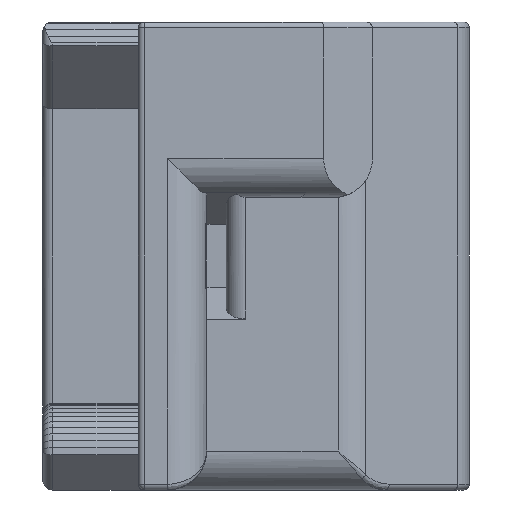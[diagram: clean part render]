
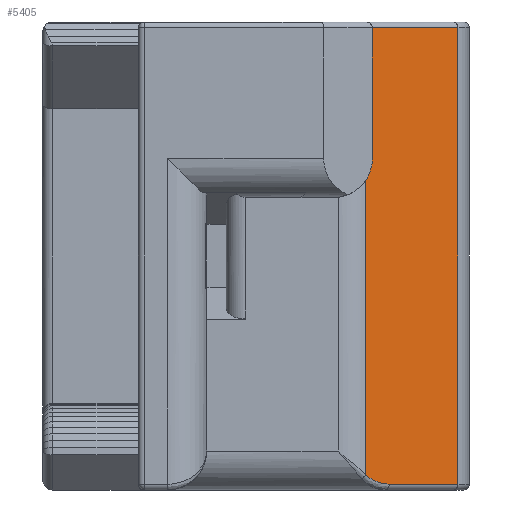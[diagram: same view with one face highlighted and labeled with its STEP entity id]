
A CAD part, left-side view. The second image highlights one B-rep face of the part: STEP entity #5405.
In plain terms, the highlighted planar face has unit normal (-0.707, -0.707, 0).
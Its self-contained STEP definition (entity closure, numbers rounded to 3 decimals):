
#63=PLANE('',#5752);
#221=LINE('',#7757,#760);
#222=LINE('',#7759,#761);
#223=LINE('',#7761,#762);
#224=LINE('',#7763,#763);
#225=LINE('',#7766,#764);
#760=VECTOR('',#6214,10.);
#761=VECTOR('',#6215,10.);
#762=VECTOR('',#6216,10.);
#763=VECTOR('',#6217,10.);
#764=VECTOR('',#6220,10.);
#1391=ELLIPSE('',#5749,2.404,1.7);
#1393=ELLIPSE('',#5753,2.828,2.);
#1478=FACE_OUTER_BOUND('',#1802,.T.);
#1802=EDGE_LOOP('',(#3710,#3711,#3712,#3713,#3714,#3715,#3716));
#2349=VERTEX_POINT('',#7693);
#2353=VERTEX_POINT('',#7746);
#2356=VERTEX_POINT('',#7756);
#2357=VERTEX_POINT('',#7758);
#2358=VERTEX_POINT('',#7760);
#2359=VERTEX_POINT('',#7762);
#2360=VERTEX_POINT('',#7764);
#2876=EDGE_CURVE('',#2353,#2349,#1391,.T.);
#2880=EDGE_CURVE('',#2356,#2353,#221,.T.);
#2881=EDGE_CURVE('',#2356,#2357,#222,.T.);
#2882=EDGE_CURVE('',#2358,#2357,#223,.T.);
#2883=EDGE_CURVE('',#2359,#2358,#224,.T.);
#2884=EDGE_CURVE('',#2359,#2360,#1393,.T.);
#2885=EDGE_CURVE('',#2349,#2360,#225,.T.);
#3710=ORIENTED_EDGE('',*,*,#2876,.F.);
#3711=ORIENTED_EDGE('',*,*,#2880,.F.);
#3712=ORIENTED_EDGE('',*,*,#2881,.T.);
#3713=ORIENTED_EDGE('',*,*,#2882,.F.);
#3714=ORIENTED_EDGE('',*,*,#2883,.F.);
#3715=ORIENTED_EDGE('',*,*,#2884,.T.);
#3716=ORIENTED_EDGE('',*,*,#2885,.F.);
#5405=ADVANCED_FACE('',(#1478),#63,.F.);
#5749=AXIS2_PLACEMENT_3D('',#7748,#6204,#6205);
#5752=AXIS2_PLACEMENT_3D('',#7755,#6212,#6213);
#5753=AXIS2_PLACEMENT_3D('',#7765,#6218,#6219);
#6204=DIRECTION('center_axis',(0.707,0.707,0.));
#6205=DIRECTION('ref_axis',(-0.707,0.707,0.));
#6212=DIRECTION('center_axis',(0.707,0.707,0.));
#6213=DIRECTION('ref_axis',(-0.707,0.707,0.));
#6214=DIRECTION('',(-0.707,0.707,0.));
#6215=DIRECTION('',(0.,0.,1.));
#6216=DIRECTION('',(0.707,-0.707,0.));
#6217=DIRECTION('',(0.,0.,1.));
#6218=DIRECTION('center_axis',(0.707,0.707,0.));
#6219=DIRECTION('ref_axis',(0.707,-0.707,0.));
#6220=DIRECTION('',(0.,0.,1.));
#7693=CARTESIAN_POINT('',(-9.514,-16.558,-11.202));
#7746=CARTESIAN_POINT('',(-8.312,-17.76,-11.7));
#7748=CARTESIAN_POINT('Origin',(-8.312,-17.76,-10.));
#7755=CARTESIAN_POINT('Origin',(-4.795,-21.277,-12.));
#7756=CARTESIAN_POINT('',(-4.795,-21.277,-11.7));
#7757=CARTESIAN_POINT('',(-6.694,-19.378,-11.7));
#7758=CARTESIAN_POINT('',(-4.795,-21.277,11.7));
#7759=CARTESIAN_POINT('',(-4.795,-21.277,-12.));
#7760=CARTESIAN_POINT('',(-9.172,-16.9,11.7));
#7761=CARTESIAN_POINT('',(-5.882,-20.19,11.7));
#7762=CARTESIAN_POINT('',(-9.172,-16.9,5.));
#7763=CARTESIAN_POINT('',(-9.172,-16.9,-12.));
#7764=CARTESIAN_POINT('',(-9.514,-16.558,3.881));
#7765=CARTESIAN_POINT('Origin',(-11.172,-14.9,5.));
#7766=CARTESIAN_POINT('',(-9.514,-16.558,-12.));
